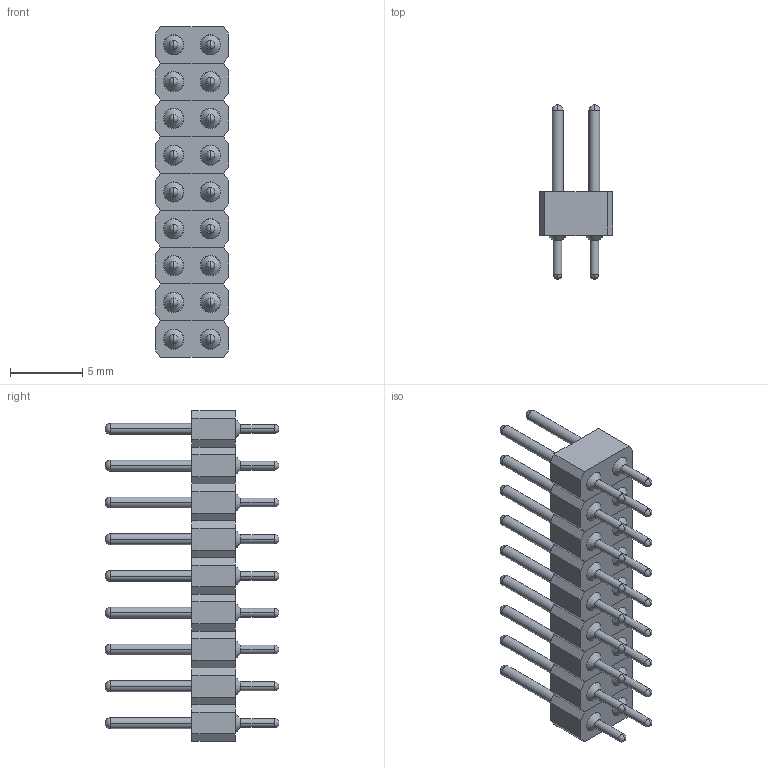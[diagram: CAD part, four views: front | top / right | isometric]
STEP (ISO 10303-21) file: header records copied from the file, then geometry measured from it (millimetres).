
FILE_DESCRIPTION(/* description */ (''),/* implementation_level */ '2;1');
FILE_NAME(/* name */ 'PZ254-2-09-Z-3.0-XX-CC (2.54双排 双头 圆直排针 L12.01 塑高3.0 上针0.75 下针0.6)-HCTL.stp',/* time_stamp */ '2026-10-23T10:57:48+08:00',/* author */ (''),/* organization */ (''),/* preprocessor_version */ 'ST-DEVELOPER v16',/* originating_system */ 'SIEMENS PLM Software NX 10.0',/* authorisation */ '');
FILE_SCHEMA (('AUTOMOTIVE_DESIGN { 1 0 10303 214 3 1 1 1 }'));
Length unit declared in the file: millimetre
Products named in the file (1): PZ254-2-N-Z-3.0-XX-CC (2.54双排 双头 \X2\5706
76F463929488\X0\ L12.01 塑高3.0 上针0.75 \X2\4E0B
9488\X0\0.6)-HCTL
Bounding box: 5.08 x 12.01 x 22.86 mm (x, y, z)
Volume: 402.9 mm3; surface area: 1503.2 mm2
Topology: 27 solids, 27 shells, 540 faces, 1224 edges, 756 vertices
Faces by surface type: cylinder 234, plane 180, sphere 72, cone 54
Full cylindrical faces by diameter (mm): 1.39 x18
Entity records: 14918 total; most frequent: CARTESIAN_POINT 2953, DIRECTION 2594, ORIENTED_EDGE 2196, AXIS2_PLACEMENT_3D 1099, EDGE_CURVE 1098, VERTEX_POINT 738, EDGE_LOOP 702, CIRCLE 558
